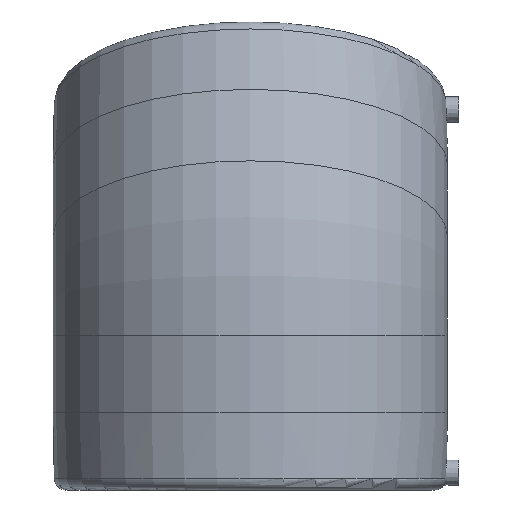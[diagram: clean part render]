
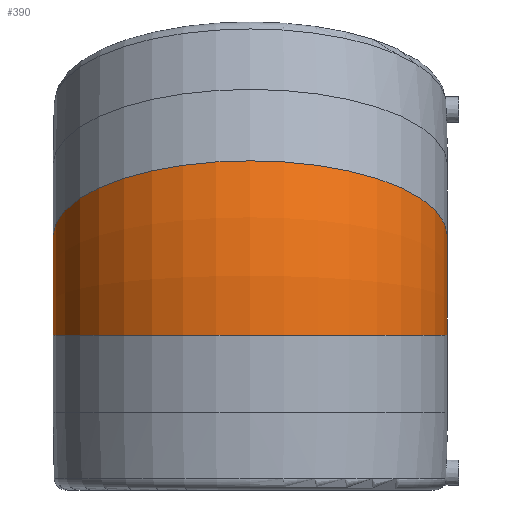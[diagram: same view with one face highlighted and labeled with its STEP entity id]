
A CAD part, left-side view. The second image highlights one B-rep face of the part: STEP entity #390.
In plain terms, the highlighted toroidal (fillet/blend) face has major radius 201.094 mm and minor radius 153 mm.
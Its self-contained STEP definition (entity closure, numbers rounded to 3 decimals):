
#23=TOROIDAL_SURFACE('',#458,201.094,153.);
#111=ORIENTED_EDGE('',*,*,#159,.T.);
#112=ORIENTED_EDGE('',*,*,#161,.F.);
#159=EDGE_CURVE('',#196,#196,#224,.F.);
#161=EDGE_CURVE('',#198,#198,#226,.F.);
#196=VERTEX_POINT('',#739);
#198=VERTEX_POINT('',#745);
#224=CIRCLE('',#455,153.);
#226=CIRCLE('',#459,153.);
#277=EDGE_LOOP('',(#111));
#278=EDGE_LOOP('',(#112));
#338=FACE_BOUND('',#277,.T.);
#339=FACE_BOUND('',#278,.T.);
#390=ADVANCED_FACE('',(#338,#339),#23,.T.);
#455=AXIS2_PLACEMENT_3D('',#738,#562,#563);
#458=AXIS2_PLACEMENT_3D('',#743,#568,#569);
#459=AXIS2_PLACEMENT_3D('',#744,#570,#571);
#562=DIRECTION('',(0.,0.,-1.));
#563=DIRECTION('',(1.,0.,0.));
#568=DIRECTION('',(0.,1.,0.));
#569=DIRECTION('',(0.,0.,1.));
#570=DIRECTION('',(-0.383,0.,-0.924));
#571=DIRECTION('',(0.924,0.,-0.383));
#738=CARTESIAN_POINT('',(0.,0.,-40.));
#739=CARTESIAN_POINT('',(153.,0.,-40.));
#743=CARTESIAN_POINT('',(201.094,0.,-40.));
#744=CARTESIAN_POINT('',(15.307,0.,36.955));
#745=CARTESIAN_POINT('',(156.661,0.,-21.595));
